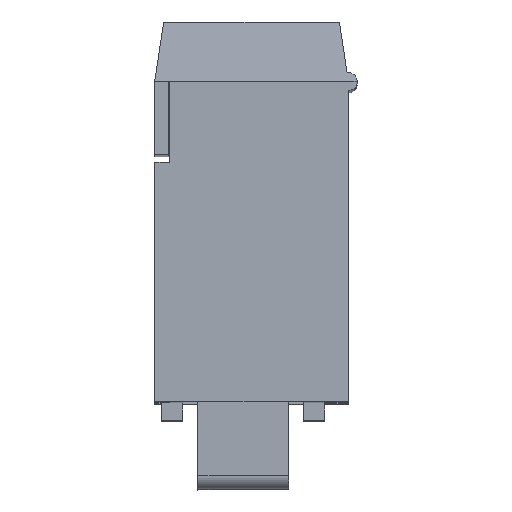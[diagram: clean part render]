
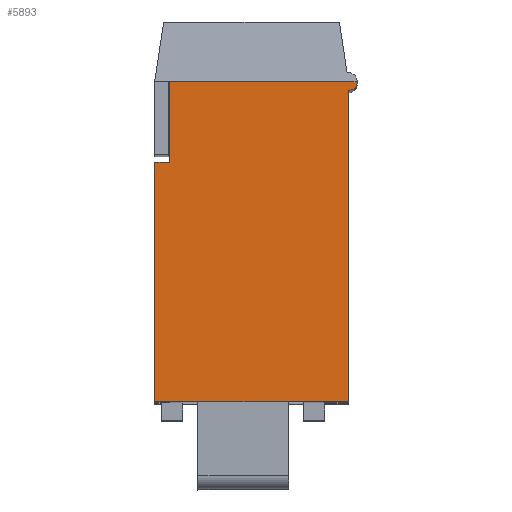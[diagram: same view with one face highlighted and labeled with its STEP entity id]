
A CAD part, top view. The second image highlights one B-rep face of the part: STEP entity #5893.
In plain terms, the highlighted planar face has unit normal (0, 0, 1).
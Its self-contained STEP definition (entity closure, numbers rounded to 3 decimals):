
#156 = CARTESIAN_POINT ( 'NONE',  ( 6.908, -8.382, 20.9 ) ) ;
#231 = CARTESIAN_POINT ( 'NONE',  ( 6.908, 13.093, 20.9 ) ) ;
#239 = CARTESIAN_POINT ( 'NONE',  ( -5.092, 13.093, 20.9 ) ) ;
#413 = CARTESIAN_POINT ( 'NONE',  ( 6.908, 13.118, 20.9 ) ) ;
#1268 = EDGE_LOOP ( 'NONE', ( #2013, #2015, #2014, #2017, #2016, #2018, #2019, #2020, #2021 ) ) ;
#2013 = ORIENTED_EDGE ( 'NONE', *, *, #2963, .F. ) ;
#2014 = ORIENTED_EDGE ( 'NONE', *, *, #3120, .T. ) ;
#2015 = ORIENTED_EDGE ( 'NONE', *, *, #3219, .F. ) ;
#2016 = ORIENTED_EDGE ( 'NONE', *, *, #2985, .T. ) ;
#2017 = ORIENTED_EDGE ( 'NONE', *, *, #9170, .F. ) ;
#2018 = ORIENTED_EDGE ( 'NONE', *, *, #3455, .T. ) ;
#2019 = ORIENTED_EDGE ( 'NONE', *, *, #9500, .T. ) ;
#2020 = ORIENTED_EDGE ( 'NONE', *, *, #9547, .T. ) ;
#2021 = ORIENTED_EDGE ( 'NONE', *, *, #9614, .T. ) ;
#2963 = EDGE_CURVE ( 'NONE', #4503, #3968, #25122, .T. ) ;
#2985 = EDGE_CURVE ( 'NONE', #4313, #4450, #25174, .T. ) ;
#3120 = EDGE_CURVE ( 'NONE', #3934, #3724, #10022, .T. ) ;
#3219 = EDGE_CURVE ( 'NONE', #3934, #4503, #28466, .T. ) ;
#3455 = EDGE_CURVE ( 'NONE', #4450, #4443, #7180, .T. ) ;
#3712 = VERTEX_POINT ( 'NONE', #26529 ) ;
#3724 = VERTEX_POINT ( 'NONE', #26576 ) ;
#3740 = VERTEX_POINT ( 'NONE', #26646 ) ;
#3934 = VERTEX_POINT ( 'NONE', #26523 ) ;
#3968 = VERTEX_POINT ( 'NONE', #26966 ) ;
#4313 = VERTEX_POINT ( 'NONE', #413 ) ;
#4443 = VERTEX_POINT ( 'NONE', #239 ) ;
#4450 = VERTEX_POINT ( 'NONE', #231 ) ;
#4503 = VERTEX_POINT ( 'NONE', #156 ) ;
#5893 = ADVANCED_FACE ( 'NONE', ( #7675 ), #11000, .T. ) ;
#6335 = VECTOR ( 'NONE', #22206, 1000. ) ;
#6414 = VECTOR ( 'NONE', #22624, 1000. ) ;
#7180 = LINE ( 'NONE', #20664, #9833 ) ;
#7675 = FACE_OUTER_BOUND ( 'NONE', #1268, .T. ) ;
#8873 = CARTESIAN_POINT ( 'NONE',  ( 6.908, 2.068, 20.9 ) ) ;
#8874 = DIRECTION ( 'NONE',  ( 0., -1., 0. ) ) ;
#9170 = EDGE_CURVE ( 'NONE', #4313, #3724, #12436, .T. ) ;
#9500 = EDGE_CURVE ( 'NONE', #4443, #3740, #15279, .T. ) ;
#9547 = EDGE_CURVE ( 'NONE', #3740, #3712, #15359, .T. ) ;
#9614 = EDGE_CURVE ( 'NONE', #3712, #3968, #15425, .T. ) ;
#9833 = VECTOR ( 'NONE', #20802, 1000. ) ;
#10022 = CIRCLE ( 'NONE', #10025, 0.6 ) ;
#10025 = AXIS2_PLACEMENT_3D ( 'NONE', #19063, #19062, #19061 ) ;
#10520 = VECTOR ( 'NONE', #8874, 1000. ) ;
#11000 = PLANE ( 'NONE',  #25471 ) ;
#11001 = CARTESIAN_POINT ( 'NONE',  ( -6.092, -8.382, 20.9 ) ) ;
#11002 = DIRECTION ( 'NONE',  ( 0., 0., 1. ) ) ;
#11003 = DIRECTION ( 'NONE',  ( 1., 0., 0. ) ) ;
#12436 = LINE ( 'NONE', #13242, #20244 ) ;
#13242 = CARTESIAN_POINT ( 'NONE',  ( 0.708, 13.118, 20.9 ) ) ;
#13243 = DIRECTION ( 'NONE',  ( 1., 0., 0. ) ) ;
#15279 = LINE ( 'NONE', #15642, #27222 ) ;
#15359 = LINE ( 'NONE', #15923, #16628 ) ;
#15425 = LINE ( 'NONE', #16153, #16729 ) ;
#15642 = CARTESIAN_POINT ( 'NONE',  ( -5.092, 2.368, 20.9 ) ) ;
#15643 = DIRECTION ( 'NONE',  ( 0., -1., 0. ) ) ;
#15923 = CARTESIAN_POINT ( 'NONE',  ( -5.592, 7.718, 20.9 ) ) ;
#15924 = DIRECTION ( 'NONE',  ( -1., 0., 0. ) ) ;
#16153 = CARTESIAN_POINT ( 'NONE',  ( -6.092, 2.368, 20.9 ) ) ;
#16154 = DIRECTION ( 'NONE',  ( 0., -1., 0. ) ) ;
#16628 = VECTOR ( 'NONE', #15924, 1000. ) ;
#16729 = VECTOR ( 'NONE', #16154, 1000. ) ;
#19061 = DIRECTION ( 'NONE',  ( 1., 0., 0. ) ) ;
#19062 = DIRECTION ( 'NONE',  ( 0., 0., 1. ) ) ;
#19063 = CARTESIAN_POINT ( 'NONE',  ( 6.908, 13.118, 20.9 ) ) ;
#20244 = VECTOR ( 'NONE', #13243, 1000. ) ;
#20664 = CARTESIAN_POINT ( 'NONE',  ( 0.749, 13.093, 20.9 ) ) ;
#20802 = DIRECTION ( 'NONE',  ( -1., 0., 0. ) ) ;
#22206 = DIRECTION ( 'NONE',  ( 0., -1., 0. ) ) ;
#22208 = CARTESIAN_POINT ( 'NONE',  ( 6.908, 2.368, 20.9 ) ) ;
#22624 = DIRECTION ( 'NONE',  ( -1., 0., 0. ) ) ;
#22627 = CARTESIAN_POINT ( 'NONE',  ( 0.408, -8.382, 20.9 ) ) ;
#25122 = LINE ( 'NONE', #22627, #6414 ) ;
#25174 = LINE ( 'NONE', #22208, #6335 ) ;
#25471 = AXIS2_PLACEMENT_3D ( 'NONE', #11001, #11002, #11003 ) ;
#26523 = CARTESIAN_POINT ( 'NONE',  ( 6.908, 12.518, 20.9 ) ) ;
#26529 = CARTESIAN_POINT ( 'NONE',  ( -6.092, 7.718, 20.9 ) ) ;
#26576 = CARTESIAN_POINT ( 'NONE',  ( 7.508, 13.118, 20.9 ) ) ;
#26646 = CARTESIAN_POINT ( 'NONE',  ( -5.092, 7.718, 20.9 ) ) ;
#26966 = CARTESIAN_POINT ( 'NONE',  ( -6.092, -8.382, 20.9 ) ) ;
#27222 = VECTOR ( 'NONE', #15643, 1000. ) ;
#28466 = LINE ( 'NONE', #8873, #10520 ) ;
